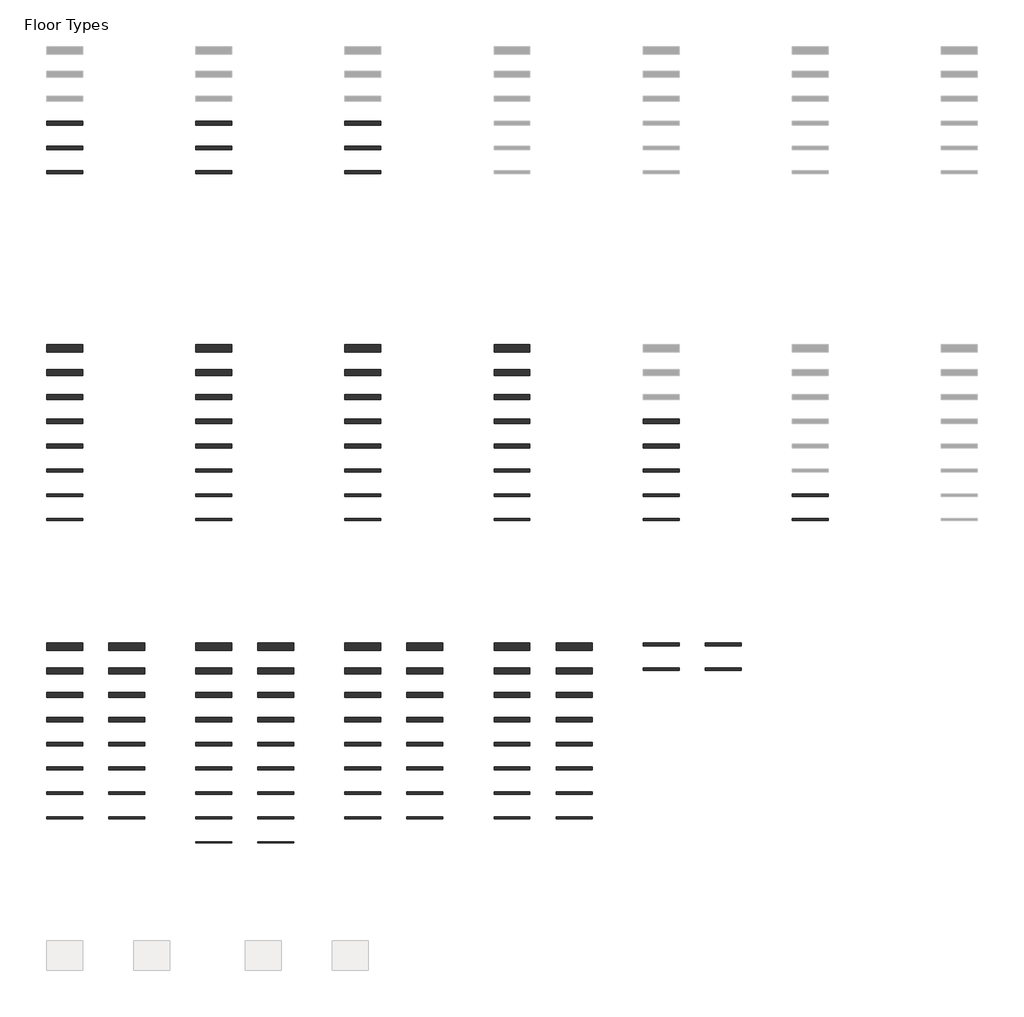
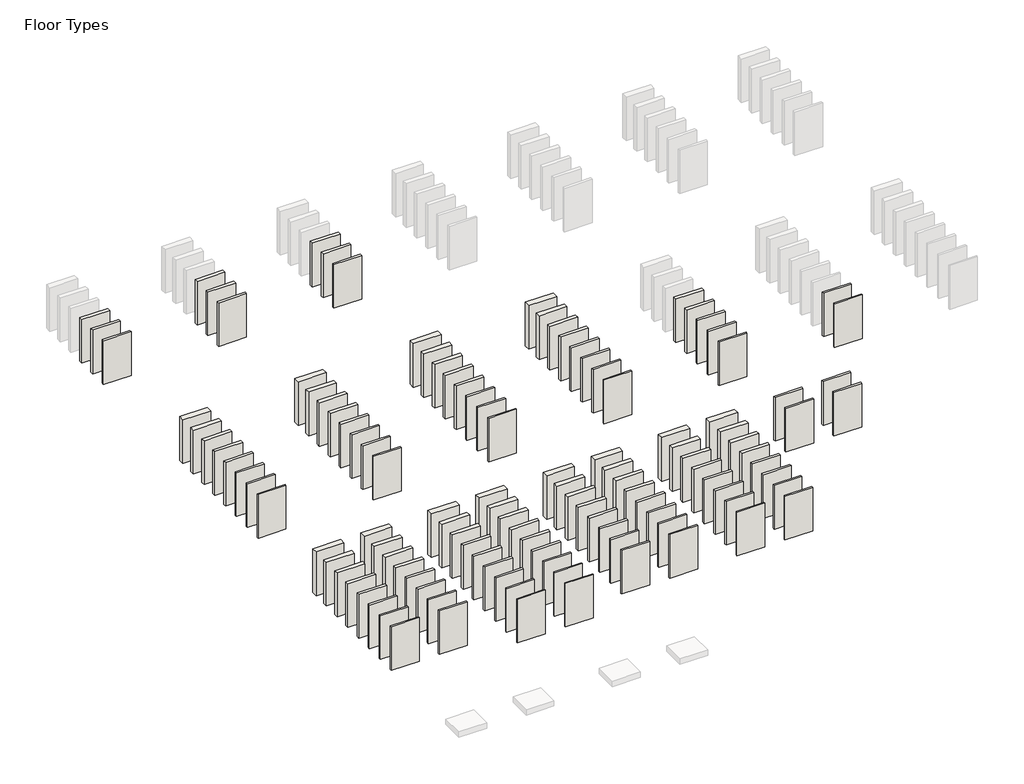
# One storey, part 1 of 4: 118 walls.
"""IFC4 building model written with IfcOpenShell, lengths in millimetres."""

from ifc_helpers import new_model, si_unit, origin, origin_with_axes, place, context, project, spatial, polyline, outline, extrude, element, save

model = new_model("IFC4")

# Units and contexts
model_context = context("Model", 3, world=origin())
ifc_project = project(units=[si_unit("LENGTHUNIT", "METRE", prefix="MILLI")], contexts=[model_context])

# Site, building, storey
site = spatial("IfcSite", under=ifc_project)
building = spatial("IfcBuilding", under=site)
storey = spatial("IfcBuildingStorey", under=building, Name="Floor Types", Elevation=0.0)

# Walls
placement = place(None, origin())
element("IfcWall", 1, ObjectType="ASTL_PS1200PD_Hz_175mm", at=placement, inside=storey, context=model_context, shape_type="SweptSolid", body=[
    extrude(outline(polyline([(1447.8085217, -32174.0), (0.0, -32174.0), (0.0, -31999.0), (1447.8085217, -31999.0), (1447.8085217, -32174.0)])), origin_with_axes(), (0.0, 0.0, 1.0), 2400.0),
])
element("IfcWall", 2, ObjectType="ASTL_PS1200PD_Hz_150mm", at=placement, inside=storey, context=model_context, shape_type="SweptSolid", body=[
    extrude(outline(polyline([(1447.8085217, -33149.0), (0.0, -33149.0), (0.0, -32999.0), (1447.8085217, -32999.0), (1447.8085217, -33149.0)])), origin_with_axes(), (0.0, 0.0, 1.0), 2400.0),
])
element("IfcWall", 3, ObjectType="ASTL_PS1200PD_Hz_120mm", at=placement, inside=storey, context=model_context, shape_type="SweptSolid", body=[
    extrude(outline(polyline([(1447.8085217, -34119.0), (0.0, -34119.0), (0.0, -33999.0), (1447.8085217, -33999.0), (1447.8085217, -34119.0)])), origin_with_axes(), (0.0, 0.0, 1.0), 2400.0),
])
element("IfcWall", 4, ObjectType="ASTE_PS1200PD_Hz_175mm", at=placement, inside=storey, context=model_context, shape_type="SweptSolid", body=[
    extrude(outline(polyline([(7447.8085217, -32174.0), (6000.0, -32174.0), (6000.0, -31999.0), (7447.8085217, -31999.0), (7447.8085217, -32174.0)])), origin_with_axes(), (0.0, 0.0, 1.0), 2400.0),
])
element("IfcWall", 5, ObjectType="ASTE_PS1200PD_Hz_150mm", at=placement, inside=storey, context=model_context, shape_type="SweptSolid", body=[
    extrude(outline(polyline([(7447.8085217, -33149.0), (6000.0, -33149.0), (6000.0, -32999.0), (7447.8085217, -32999.0), (7447.8085217, -33149.0)])), origin_with_axes(), (0.0, 0.0, 1.0), 2400.0),
])
element("IfcWall", 6, ObjectType="ASTE_PS1200PD_Hz_120mm", at=placement, inside=storey, context=model_context, shape_type="SweptSolid", body=[
    extrude(outline(polyline([(7447.8085217, -34119.0), (6000.0, -34119.0), (6000.0, -33999.0), (7447.8085217, -33999.0), (7447.8085217, -34119.0)])), origin_with_axes(), (0.0, 0.0, 1.0), 2400.0),
])
element("IfcWall", 7, ObjectType="ASTF_PS1200PD_Hz_175mm", at=placement, inside=storey, context=model_context, shape_type="SweptSolid", body=[
    extrude(outline(polyline([(13447.8085217, -32174.0), (12000.0, -32174.0), (12000.0, -31999.0), (13447.8085217, -31999.0), (13447.8085217, -32174.0)])), origin_with_axes(), (0.0, 0.0, 1.0), 2400.0),
])
element("IfcWall", 8, ObjectType="ASTF_PS1200PD_Hz_150mm", at=placement, inside=storey, context=model_context, shape_type="SweptSolid", body=[
    extrude(outline(polyline([(13447.8085217, -33149.0), (12000.0, -33149.0), (12000.0, -32999.0), (13447.8085217, -32999.0), (13447.8085217, -33149.0)])), origin_with_axes(), (0.0, 0.0, 1.0), 2400.0),
])
element("IfcWall", 9, ObjectType="ASTF_PS1200PD_Hz_120mm", at=placement, inside=storey, context=model_context, shape_type="SweptSolid", body=[
    extrude(outline(polyline([(13447.8085217, -34119.0), (12000.0, -34119.0), (12000.0, -33999.0), (13447.8085217, -33999.0), (13447.8085217, -34119.0)])), origin_with_axes(), (0.0, 0.0, 1.0), 2400.0),
])
element("IfcWall", 10, ObjectType="ASTL_PS1200PS_Hz_300mm", at=placement, inside=storey, context=model_context, shape_type="SweptSolid", body=[
    extrude(outline(polyline([(1447.8085217, -41298.0), (0.0, -41298.0), (0.0, -40998.0), (1447.8085217, -40998.0), (1447.8085217, -41298.0)])), origin_with_axes(), (0.0, 0.0, 1.0), 2400.0),
])
element("IfcWall", 11, ObjectType="ASTL_PS1200PS_Hz_240mm", at=placement, inside=storey, context=model_context, shape_type="SweptSolid", body=[
    extrude(outline(polyline([(1447.8085217, -42239.0), (0.0, -42239.0), (0.0, -41999.0), (1447.8085217, -41999.0), (1447.8085217, -42239.0)])), origin_with_axes(), (0.0, 0.0, 1.0), 2400.0),
])
element("IfcWall", 12, ObjectType="ASTL_PS1200PS_Hz_200mm", at=placement, inside=storey, context=model_context, shape_type="SweptSolid", body=[
    extrude(outline(polyline([(1447.8085217, -43199.0), (0.0, -43199.0), (0.0, -42999.0), (1447.8085217, -42999.0), (1447.8085217, -43199.0)])), origin_with_axes(), (0.0, 0.0, 1.0), 2400.0),
])
element("IfcWall", 13, ObjectType="ASTL_PS1200PS_Hz_175mm", at=placement, inside=storey, context=model_context, shape_type="SweptSolid", body=[
    extrude(outline(polyline([(1447.8085217, -44174.0), (0.0, -44174.0), (0.0, -43999.0), (1447.8085217, -43999.0), (1447.8085217, -44174.0)])), origin_with_axes(), (0.0, 0.0, 1.0), 2400.0),
])
element("IfcWall", 14, ObjectType="ASTL_PS1200PS_Hz_150mm", at=placement, inside=storey, context=model_context, shape_type="SweptSolid", body=[
    extrude(outline(polyline([(1447.8085217, -45149.0), (0.0, -45149.0), (0.0, -44999.0), (1447.8085217, -44999.0), (1447.8085217, -45149.0)])), origin_with_axes(), (0.0, 0.0, 1.0), 2400.0),
])
element("IfcWall", 15, ObjectType="ASTL_PS1200PS_Hz_120mm", at=placement, inside=storey, context=model_context, shape_type="SweptSolid", body=[
    extrude(outline(polyline([(1447.8085217, -46119.0), (0.0, -46119.0), (0.0, -45999.0), (1447.8085217, -45999.0), (1447.8085217, -46119.0)])), origin_with_axes(), (0.0, 0.0, 1.0), 2400.0),
])
element("IfcWall", 16, ObjectType="ASTL_PS1200PS_Hz_100mm", at=placement, inside=storey, context=model_context, shape_type="SweptSolid", body=[
    extrude(outline(polyline([(1447.8085217, -47099.0), (0.0, -47099.0), (0.0, -46999.0), (1447.8085217, -46999.0), (1447.8085217, -47099.0)])), origin_with_axes(), (0.0, 0.0, 1.0), 2400.0),
])
element("IfcWall", 17, ObjectType="ASTL_PS1200PS_Hz_080mm", at=placement, inside=storey, context=model_context, shape_type="SweptSolid", body=[
    extrude(outline(polyline([(1447.8085217, -48079.0), (0.0, -48079.0), (0.0, -47999.0), (1447.8085217, -47999.0), (1447.8085217, -48079.0)])), origin_with_axes(), (0.0, 0.0, 1.0), 2400.0),
])
element("IfcWall", 18, ObjectType="ASTE_PS1200PS_Hz_300mm", at=placement, inside=storey, context=model_context, shape_type="SweptSolid", body=[
    extrude(outline(polyline([(7447.8085217, -41299.0), (6000.0, -41299.0), (6000.0, -40999.0), (7447.8085217, -40999.0), (7447.8085217, -41299.0)])), origin_with_axes(), (0.0, 0.0, 1.0), 2400.0),
])
element("IfcWall", 19, ObjectType="ASTE_PS1200PS_Hz_240mm", at=placement, inside=storey, context=model_context, shape_type="SweptSolid", body=[
    extrude(outline(polyline([(7447.8085217, -42239.0), (6000.0, -42239.0), (6000.0, -41999.0), (7447.8085217, -41999.0), (7447.8085217, -42239.0)])), origin_with_axes(), (0.0, 0.0, 1.0), 2400.0),
])
element("IfcWall", 20, ObjectType="ASTE_PS1200PS_Hz_200mm", at=placement, inside=storey, context=model_context, shape_type="SweptSolid", body=[
    extrude(outline(polyline([(7447.8085217, -43199.0), (6000.0, -43199.0), (6000.0, -42999.0), (7447.8085217, -42999.0), (7447.8085217, -43199.0)])), origin_with_axes(), (0.0, 0.0, 1.0), 2400.0),
])
element("IfcWall", 21, ObjectType="ASTE_PS1200PS_Hz_175mm", at=placement, inside=storey, context=model_context, shape_type="SweptSolid", body=[
    extrude(outline(polyline([(7447.8085217, -44174.0), (6000.0, -44174.0), (6000.0, -43999.0), (7447.8085217, -43999.0), (7447.8085217, -44174.0)])), origin_with_axes(), (0.0, 0.0, 1.0), 2400.0),
])
element("IfcWall", 22, ObjectType="ASTE_PS1200PS_Hz_150mm", at=placement, inside=storey, context=model_context, shape_type="SweptSolid", body=[
    extrude(outline(polyline([(7447.8085217, -45149.0), (6000.0, -45149.0), (6000.0, -44999.0), (7447.8085217, -44999.0), (7447.8085217, -45149.0)])), origin_with_axes(), (0.0, 0.0, 1.0), 2400.0),
])
element("IfcWall", 23, ObjectType="ASTE_PS1200PS_Hz_120mm", at=placement, inside=storey, context=model_context, shape_type="SweptSolid", body=[
    extrude(outline(polyline([(7447.8085217, -46119.0), (6000.0, -46119.0), (6000.0, -45999.0), (7447.8085217, -45999.0), (7447.8085217, -46119.0)])), origin_with_axes(), (0.0, 0.0, 1.0), 2400.0),
])
element("IfcWall", 24, ObjectType="ASTE_PS1200PS_Hz_100mm", at=placement, inside=storey, context=model_context, shape_type="SweptSolid", body=[
    extrude(outline(polyline([(7447.8085217, -47099.0), (6000.0, -47099.0), (6000.0, -46999.0), (7447.8085217, -46999.0), (7447.8085217, -47099.0)])), origin_with_axes(), (0.0, 0.0, 1.0), 2400.0),
])
element("IfcWall", 25, ObjectType="ASTE_PS1200PS_Hz_080mm", at=placement, inside=storey, context=model_context, shape_type="SweptSolid", body=[
    extrude(outline(polyline([(7447.8085217, -48079.0), (6000.0, -48079.0), (6000.0, -47999.0), (7447.8085217, -47999.0), (7447.8085217, -48079.0)])), origin_with_axes(), (0.0, 0.0, 1.0), 2400.0),
])
element("IfcWall", 26, ObjectType="ASTF_PS1200PS_Hz_300mm", at=placement, inside=storey, context=model_context, shape_type="SweptSolid", body=[
    extrude(outline(polyline([(13447.8085217, -41298.0), (12000.0, -41298.0), (12000.0, -40998.0), (13447.8085217, -40998.0), (13447.8085217, -41298.0)])), origin_with_axes(), (0.0, 0.0, 1.0), 2400.0),
])
element("IfcWall", 27, ObjectType="ASTF_PS1200PS_Hz_240mm", at=placement, inside=storey, context=model_context, shape_type="SweptSolid", body=[
    extrude(outline(polyline([(13447.8085217, -42239.0), (12000.0, -42239.0), (12000.0, -41999.0), (13447.8085217, -41999.0), (13447.8085217, -42239.0)])), origin_with_axes(), (0.0, 0.0, 1.0), 2400.0),
])
element("IfcWall", 28, ObjectType="ASTF_PS1200PS_Hz_200mm", at=placement, inside=storey, context=model_context, shape_type="SweptSolid", body=[
    extrude(outline(polyline([(13447.8085217, -43199.0), (12000.0, -43199.0), (12000.0, -42999.0), (13447.8085217, -42999.0), (13447.8085217, -43199.0)])), origin_with_axes(), (0.0, 0.0, 1.0), 2400.0),
])
element("IfcWall", 29, ObjectType="ASTF_PS1200PS_Hz_175mm", at=placement, inside=storey, context=model_context, shape_type="SweptSolid", body=[
    extrude(outline(polyline([(13447.8085217, -44174.0), (12000.0, -44174.0), (12000.0, -43999.0), (13447.8085217, -43999.0), (13447.8085217, -44174.0)])), origin_with_axes(), (0.0, 0.0, 1.0), 2400.0),
])
element("IfcWall", 30, ObjectType="ASTF_PS1200PS_Hz_150mm", at=placement, inside=storey, context=model_context, shape_type="SweptSolid", body=[
    extrude(outline(polyline([(13447.8085217, -45149.0), (12000.0, -45149.0), (12000.0, -44999.0), (13447.8085217, -44999.0), (13447.8085217, -45149.0)])), origin_with_axes(), (0.0, 0.0, 1.0), 2400.0),
])
element("IfcWall", 31, ObjectType="ASTF_PS1200PS_Hz_120mm", at=placement, inside=storey, context=model_context, shape_type="SweptSolid", body=[
    extrude(outline(polyline([(13447.8085217, -46119.0), (12000.0, -46119.0), (12000.0, -45999.0), (13447.8085217, -45999.0), (13447.8085217, -46119.0)])), origin_with_axes(), (0.0, 0.0, 1.0), 2400.0),
])
element("IfcWall", 32, ObjectType="ASTF_PS1200PS_Hz_100mm", at=placement, inside=storey, context=model_context, shape_type="SweptSolid", body=[
    extrude(outline(polyline([(13447.8085217, -47099.0), (12000.0, -47099.0), (12000.0, -46999.0), (13447.8085217, -46999.0), (13447.8085217, -47099.0)])), origin_with_axes(), (0.0, 0.0, 1.0), 2400.0),
])
element("IfcWall", 33, ObjectType="ASTF_PS1200PS_Hz_080mm", at=placement, inside=storey, context=model_context, shape_type="SweptSolid", body=[
    extrude(outline(polyline([(13447.8085217, -48079.0), (12000.0, -48079.0), (12000.0, -47999.0), (13447.8085217, -47999.0), (13447.8085217, -48079.0)])), origin_with_axes(), (0.0, 0.0, 1.0), 2400.0),
])
element("IfcWall", 34, ObjectType="ASTS_PS1200PS_Hz_300mm", at=placement, inside=storey, context=model_context, shape_type="SweptSolid", body=[
    extrude(outline(polyline([(19447.8085217, -41298.0), (18000.0, -41298.0), (18000.0, -40998.0), (19447.8085217, -40998.0), (19447.8085217, -41298.0)])), origin_with_axes(), (0.0, 0.0, 1.0), 2400.0),
])
element("IfcWall", 35, ObjectType="ASTS_PS1200PS_Hz_240mm", at=placement, inside=storey, context=model_context, shape_type="SweptSolid", body=[
    extrude(outline(polyline([(19447.8085217, -42239.0), (18000.0, -42239.0), (18000.0, -41999.0), (19447.8085217, -41999.0), (19447.8085217, -42239.0)])), origin_with_axes(), (0.0, 0.0, 1.0), 2400.0),
])
element("IfcWall", 36, ObjectType="ASTS_PS1200PS_Hz_200mm", at=placement, inside=storey, context=model_context, shape_type="SweptSolid", body=[
    extrude(outline(polyline([(19447.8085217, -43199.0), (18000.0, -43199.0), (18000.0, -42999.0), (19447.8085217, -42999.0), (19447.8085217, -43199.0)])), origin_with_axes(), (0.0, 0.0, 1.0), 2400.0),
])
element("IfcWall", 37, ObjectType="ASTS_PS1200PS_Hz_175mm", at=placement, inside=storey, context=model_context, shape_type="SweptSolid", body=[
    extrude(outline(polyline([(19447.8085217, -44174.0), (18000.0, -44174.0), (18000.0, -43999.0), (19447.8085217, -43999.0), (19447.8085217, -44174.0)])), origin_with_axes(), (0.0, 0.0, 1.0), 2400.0),
])
element("IfcWall", 38, ObjectType="ASTS_PS1200PS_Hz_150mm", at=placement, inside=storey, context=model_context, shape_type="SweptSolid", body=[
    extrude(outline(polyline([(19447.8085217, -45149.0), (18000.0, -45149.0), (18000.0, -44999.0), (19447.8085217, -44999.0), (19447.8085217, -45149.0)])), origin_with_axes(), (0.0, 0.0, 1.0), 2400.0),
])
element("IfcWall", 39, ObjectType="ASTS_PS1200PS_Hz_120mm", at=placement, inside=storey, context=model_context, shape_type="SweptSolid", body=[
    extrude(outline(polyline([(19447.8085217, -46119.0), (18000.0, -46119.0), (18000.0, -45999.0), (19447.8085217, -45999.0), (19447.8085217, -46119.0)])), origin_with_axes(), (0.0, 0.0, 1.0), 2400.0),
])
element("IfcWall", 40, ObjectType="ASTS_PS1200PS_Hz_100mm", at=placement, inside=storey, context=model_context, shape_type="SweptSolid", body=[
    extrude(outline(polyline([(19447.8085217, -47099.0), (18000.0, -47099.0), (18000.0, -46999.0), (19447.8085217, -46999.0), (19447.8085217, -47099.0)])), origin_with_axes(), (0.0, 0.0, 1.0), 2400.0),
])
element("IfcWall", 41, ObjectType="ASTS_PS1200PS_Hz_080mm", at=placement, inside=storey, context=model_context, shape_type="SweptSolid", body=[
    extrude(outline(polyline([(19447.8085217, -48079.0), (18000.0, -48079.0), (18000.0, -47999.0), (19447.8085217, -47999.0), (19447.8085217, -48079.0)])), origin_with_axes(), (0.0, 0.0, 1.0), 2400.0),
])
element("IfcWall", 42, ObjectType="ASTL_PS1200PS-LEC_Hz_175mm", at=placement, inside=storey, context=model_context, shape_type="SweptSolid", body=[
    extrude(outline(polyline([(25447.8085217, -44174.0), (24000.0, -44174.0), (24000.0, -43999.0), (25447.8085217, -43999.0), (25447.8085217, -44174.0)])), origin_with_axes(), (0.0, 0.0, 1.0), 2400.0),
])
element("IfcWall", 43, ObjectType="ASTL_PS1200PS-LEC_Hz_150mm", at=placement, inside=storey, context=model_context, shape_type="SweptSolid", body=[
    extrude(outline(polyline([(25447.8085217, -45149.0), (24000.0, -45149.0), (24000.0, -44999.0), (25447.8085217, -44999.0), (25447.8085217, -45149.0)])), origin_with_axes(), (0.0, 0.0, 1.0), 2400.0),
])
element("IfcWall", 44, ObjectType="ASTL_PS1200PS-LEC_Hz_120mm", at=placement, inside=storey, context=model_context, shape_type="SweptSolid", body=[
    extrude(outline(polyline([(25447.8085217, -46119.0), (24000.0, -46119.0), (24000.0, -45999.0), (25447.8085217, -45999.0), (25447.8085217, -46119.0)])), origin_with_axes(), (0.0, 0.0, 1.0), 2400.0),
])
element("IfcWall", 45, ObjectType="ASTL_PS1200PS-LEC_Hz_100mm", at=placement, inside=storey, context=model_context, shape_type="SweptSolid", body=[
    extrude(outline(polyline([(25447.8085217, -47099.0), (24000.0, -47099.0), (24000.0, -46999.0), (25447.8085217, -46999.0), (25447.8085217, -47099.0)])), origin_with_axes(), (0.0, 0.0, 1.0), 2400.0),
])
element("IfcWall", 46, ObjectType="ASTL_PS1200PS-LEC_Hz_080mm", at=placement, inside=storey, context=model_context, shape_type="SweptSolid", body=[
    extrude(outline(polyline([(25447.8085217, -48079.0), (24000.0, -48079.0), (24000.0, -47999.0), (25447.8085217, -47999.0), (25447.8085217, -48079.0)])), origin_with_axes(), (0.0, 0.0, 1.0), 2400.0),
])
element("IfcWall", 47, ObjectType="ASTE_PS1200PS-LEC_Hz_100mm", at=placement, inside=storey, context=model_context, shape_type="SweptSolid", body=[
    extrude(outline(polyline([(31447.8085217, -47099.0), (30000.0, -47099.0), (30000.0, -46999.0), (31447.8085217, -46999.0), (31447.8085217, -47099.0)])), origin_with_axes(), (0.0, 0.0, 1.0), 2400.0),
])
element("IfcWall", 48, ObjectType="ASTE_PS1200PS-LEC_Hz_080mm", at=placement, inside=storey, context=model_context, shape_type="SweptSolid", body=[
    extrude(outline(polyline([(31447.8085217, -48079.0), (30000.0, -48079.0), (30000.0, -47999.0), (31447.8085217, -47999.0), (31447.8085217, -48079.0)])), origin_with_axes(), (0.0, 0.0, 1.0), 2400.0),
])
element("IfcWall", 49, ObjectType="ASTL_PS1200PL-LEC_Hz_300mm", at=placement, inside=storey, context=model_context, shape_type="SweptSolid", body=[
    extrude(outline(polyline([(1447.8085217, -53298.0), (0.0, -53298.0), (0.0, -52998.0), (1447.8085217, -52998.0), (1447.8085217, -53298.0)])), origin_with_axes(), (0.0, 0.0, 1.0), 2400.0),
])
element("IfcWall", 50, ObjectType="ASTL_PS1200PL-LEC_Hz_240mm", at=placement, inside=storey, context=model_context, shape_type="SweptSolid", body=[
    extrude(outline(polyline([(1447.8085217, -54239.0), (0.0, -54239.0), (0.0, -53999.0), (1447.8085217, -53999.0), (1447.8085217, -54239.0)])), origin_with_axes(), (0.0, 0.0, 1.0), 2400.0),
])
element("IfcWall", 51, ObjectType="ASTL_PS1200PL-LEC_Hz_200mm", at=placement, inside=storey, context=model_context, shape_type="SweptSolid", body=[
    extrude(outline(polyline([(1447.8085217, -55199.0), (0.0, -55199.0), (0.0, -54999.0), (1447.8085217, -54999.0), (1447.8085217, -55199.0)])), origin_with_axes(), (0.0, 0.0, 1.0), 2400.0),
])
element("IfcWall", 52, ObjectType="ASTL_PS1200PL-LEC_Hz_175mm", at=placement, inside=storey, context=model_context, shape_type="SweptSolid", body=[
    extrude(outline(polyline([(1447.8085217, -56174.0), (0.0, -56174.0), (0.0, -55999.0), (1447.8085217, -55999.0), (1447.8085217, -56174.0)])), origin_with_axes(), (0.0, 0.0, 1.0), 2400.0),
])
element("IfcWall", 53, ObjectType="ASTL_PS1200PL-LEC_Hz_150mm", at=placement, inside=storey, context=model_context, shape_type="SweptSolid", body=[
    extrude(outline(polyline([(1447.8085217, -57149.0), (0.0, -57149.0), (0.0, -56999.0), (1447.8085217, -56999.0), (1447.8085217, -57149.0)])), origin_with_axes(), (0.0, 0.0, 1.0), 2400.0),
])
element("IfcWall", 54, ObjectType="ASTL_PS1200PL-LEC_Hz_120mm", at=placement, inside=storey, context=model_context, shape_type="SweptSolid", body=[
    extrude(outline(polyline([(1447.8085217, -58119.0), (0.0, -58119.0), (0.0, -57999.0), (1447.8085217, -57999.0), (1447.8085217, -58119.0)])), origin_with_axes(), (0.0, 0.0, 1.0), 2400.0),
])
element("IfcWall", 55, ObjectType="ASTL_PS1200PL-LEC_Hz_100mm", at=placement, inside=storey, context=model_context, shape_type="SweptSolid", body=[
    extrude(outline(polyline([(1447.8085217, -59099.0), (0.0, -59099.0), (0.0, -58999.0), (1447.8085217, -58999.0), (1447.8085217, -59099.0)])), origin_with_axes(), (0.0, 0.0, 1.0), 2400.0),
])
element("IfcWall", 56, ObjectType="ASTL_PS1200PL-LEC_Vt_300mm", at=placement, inside=storey, context=model_context, shape_type="SweptSolid", body=[
    extrude(outline(polyline([(3947.5922316, -53298.0), (2499.78371, -53298.0), (2499.78371, -52998.0), (3947.5922316, -52998.0), (3947.5922316, -53298.0)])), origin_with_axes(), (0.0, 0.0, 1.0), 2400.0),
])
element("IfcWall", 57, ObjectType="ASTL_PS1200PL-LEC_Vt_240mm", at=placement, inside=storey, context=model_context, shape_type="SweptSolid", body=[
    extrude(outline(polyline([(3947.5922316, -54239.0), (2499.78371, -54239.0), (2499.78371, -53999.0), (3947.5922316, -53999.0), (3947.5922316, -54239.0)])), origin_with_axes(), (0.0, 0.0, 1.0), 2400.0),
])
element("IfcWall", 58, ObjectType="ASTL_PS1200PL-LEC_Vt_200mm", at=placement, inside=storey, context=model_context, shape_type="SweptSolid", body=[
    extrude(outline(polyline([(3947.5922316, -55199.0), (2499.78371, -55199.0), (2499.78371, -54999.0), (3947.5922316, -54999.0), (3947.5922316, -55199.0)])), origin_with_axes(), (0.0, 0.0, 1.0), 2400.0),
])
element("IfcWall", 59, ObjectType="ASTL_PS1200PL-LEC_Vt_175mm", at=placement, inside=storey, context=model_context, shape_type="SweptSolid", body=[
    extrude(outline(polyline([(3947.5922316, -56174.0), (2499.78371, -56174.0), (2499.78371, -55999.0), (3947.5922316, -55999.0), (3947.5922316, -56174.0)])), origin_with_axes(), (0.0, 0.0, 1.0), 2400.0),
])
element("IfcWall", 60, ObjectType="ASTL_PS1200PL-LEC_Vt_150mm", at=placement, inside=storey, context=model_context, shape_type="SweptSolid", body=[
    extrude(outline(polyline([(3947.5922316, -57149.0), (2499.78371, -57149.0), (2499.78371, -56999.0), (3947.5922316, -56999.0), (3947.5922316, -57149.0)])), origin_with_axes(), (0.0, 0.0, 1.0), 2400.0),
])
element("IfcWall", 61, ObjectType="ASTL_PS1200PL-LEC_Vt_120mm", at=placement, inside=storey, context=model_context, shape_type="SweptSolid", body=[
    extrude(outline(polyline([(3947.5922316, -58119.0), (2499.78371, -58119.0), (2499.78371, -57999.0), (3947.5922316, -57999.0), (3947.5922316, -58119.0)])), origin_with_axes(), (0.0, 0.0, 1.0), 2400.0),
])
element("IfcWall", 62, ObjectType="ASTL_PS1200PL-LEC_Vt_100mm", at=placement, inside=storey, context=model_context, shape_type="SweptSolid", body=[
    extrude(outline(polyline([(3947.5922316, -59099.0), (2499.78371, -59099.0), (2499.78371, -58999.0), (3947.5922316, -58999.0), (3947.5922316, -59099.0)])), origin_with_axes(), (0.0, 0.0, 1.0), 2400.0),
])
element("IfcWall", 63, ObjectType="ASTL_PS1200PL-LEC_Vt_080mm", at=placement, inside=storey, context=model_context, shape_type="SweptSolid", body=[
    extrude(outline(polyline([(3947.5922316, -60079.0), (2499.78371, -60079.0), (2499.78371, -59999.0), (3947.5922316, -59999.0), (3947.5922316, -60079.0)])), origin_with_axes(), (0.0, 0.0, 1.0), 2400.0),
])
element("IfcWall", 64, ObjectType="ASTL_PS1200PL-LEC_Hz_080mm", at=placement, inside=storey, context=model_context, shape_type="SweptSolid", body=[
    extrude(outline(polyline([(1447.8085217, -60079.0), (0.0, -60079.0), (0.0, -59999.0), (1447.8085217, -59999.0), (1447.8085217, -60079.0)])), origin_with_axes(), (0.0, 0.0, 1.0), 2400.0),
])
element("IfcWall", 65, ObjectType="ASTE_PS1200PL-LEC_Hz_300mm", at=placement, inside=storey, context=model_context, shape_type="SweptSolid", body=[
    extrude(outline(polyline([(7447.8085217, -53298.0), (6000.0, -53298.0), (6000.0, -52998.0), (7447.8085217, -52998.0), (7447.8085217, -53298.0)])), origin_with_axes(), (0.0, 0.0, 1.0), 2400.0),
])
element("IfcWall", 66, ObjectType="ASTE_PS1200PL-LEC_Hz_240mm", at=placement, inside=storey, context=model_context, shape_type="SweptSolid", body=[
    extrude(outline(polyline([(7447.8085217, -54239.0), (6000.0, -54239.0), (6000.0, -53999.0), (7447.8085217, -53999.0), (7447.8085217, -54239.0)])), origin_with_axes(), (0.0, 0.0, 1.0), 2400.0),
])
element("IfcWall", 67, ObjectType="ASTE_PS1200PL-LEC_Hz_200mm", at=placement, inside=storey, context=model_context, shape_type="SweptSolid", body=[
    extrude(outline(polyline([(7447.8085217, -55199.0), (6000.0, -55199.0), (6000.0, -54999.0), (7447.8085217, -54999.0), (7447.8085217, -55199.0)])), origin_with_axes(), (0.0, 0.0, 1.0), 2400.0),
])
element("IfcWall", 68, ObjectType="ASTE_PS1200PL-LEC_Hz_175mm", at=placement, inside=storey, context=model_context, shape_type="SweptSolid", body=[
    extrude(outline(polyline([(7447.8085217, -56174.0), (6000.0, -56174.0), (6000.0, -55999.0), (7447.8085217, -55999.0), (7447.8085217, -56174.0)])), origin_with_axes(), (0.0, 0.0, 1.0), 2400.0),
])
element("IfcWall", 69, ObjectType="ASTE_PS1200PL-LEC_Hz_150mm", at=placement, inside=storey, context=model_context, shape_type="SweptSolid", body=[
    extrude(outline(polyline([(7447.8085217, -57149.0), (6000.0, -57149.0), (6000.0, -56999.0), (7447.8085217, -56999.0), (7447.8085217, -57149.0)])), origin_with_axes(), (0.0, 0.0, 1.0), 2400.0),
])
element("IfcWall", 70, ObjectType="ASTE_PS1200PL-LEC_Hz_120mm", at=placement, inside=storey, context=model_context, shape_type="SweptSolid", body=[
    extrude(outline(polyline([(7447.8085217, -58119.0), (6000.0, -58119.0), (6000.0, -57999.0), (7447.8085217, -57999.0), (7447.8085217, -58119.0)])), origin_with_axes(), (0.0, 0.0, 1.0), 2400.0),
])
element("IfcWall", 71, ObjectType="ASTE_PS1200PL-LEC_Hz_100mm", at=placement, inside=storey, context=model_context, shape_type="SweptSolid", body=[
    extrude(outline(polyline([(7447.8085217, -59099.0), (6000.0, -59099.0), (6000.0, -58999.0), (7447.8085217, -58999.0), (7447.8085217, -59099.0)])), origin_with_axes(), (0.0, 0.0, 1.0), 2400.0),
])
element("IfcWall", 72, ObjectType="ASTE_PS1200PL-LEC_Vt_300mm", at=placement, inside=storey, context=model_context, shape_type="SweptSolid", body=[
    extrude(outline(polyline([(9947.5922316, -53298.0), (8499.78371, -53298.0), (8499.78371, -52998.0), (9947.5922316, -52998.0), (9947.5922316, -53298.0)])), origin_with_axes(), (0.0, 0.0, 1.0), 2400.0),
])
element("IfcWall", 73, ObjectType="ASTE_PS1200PL-LEC_Vt_240mm", at=placement, inside=storey, context=model_context, shape_type="SweptSolid", body=[
    extrude(outline(polyline([(9947.5922316, -54239.0), (8499.78371, -54239.0), (8499.78371, -53999.0), (9947.5922316, -53999.0), (9947.5922316, -54239.0)])), origin_with_axes(), (0.0, 0.0, 1.0), 2400.0),
])
element("IfcWall", 74, ObjectType="ASTE_PS1200PL-LEC_Vt_200mm", at=placement, inside=storey, context=model_context, shape_type="SweptSolid", body=[
    extrude(outline(polyline([(9947.5922316, -55199.0), (8499.78371, -55199.0), (8499.78371, -54999.0), (9947.5922316, -54999.0), (9947.5922316, -55199.0)])), origin_with_axes(), (0.0, 0.0, 1.0), 2400.0),
])
element("IfcWall", 75, ObjectType="ASTE_PS1200PL-LEC_Vt_175mm", at=placement, inside=storey, context=model_context, shape_type="SweptSolid", body=[
    extrude(outline(polyline([(9947.5922316, -56174.0), (8499.78371, -56174.0), (8499.78371, -55999.0), (9947.5922316, -55999.0), (9947.5922316, -56174.0)])), origin_with_axes(), (0.0, 0.0, 1.0), 2400.0),
])
element("IfcWall", 76, ObjectType="ASTE_PS1200PL-LEC_Vt_150mm", at=placement, inside=storey, context=model_context, shape_type="SweptSolid", body=[
    extrude(outline(polyline([(9947.5922316, -57149.0), (8499.78371, -57149.0), (8499.78371, -56999.0), (9947.5922316, -56999.0), (9947.5922316, -57149.0)])), origin_with_axes(), (0.0, 0.0, 1.0), 2400.0),
])
element("IfcWall", 77, ObjectType="ASTE_PS1200PL-LEC_Vt_120mm", at=placement, inside=storey, context=model_context, shape_type="SweptSolid", body=[
    extrude(outline(polyline([(9947.5922316, -58119.0), (8499.78371, -58119.0), (8499.78371, -57999.0), (9947.5922316, -57999.0), (9947.5922316, -58119.0)])), origin_with_axes(), (0.0, 0.0, 1.0), 2400.0),
])
element("IfcWall", 78, ObjectType="ASTE_PS1200PL-LEC_Vt_100mm", at=placement, inside=storey, context=model_context, shape_type="SweptSolid", body=[
    extrude(outline(polyline([(9947.5922316, -59099.0), (8499.78371, -59099.0), (8499.78371, -58999.0), (9947.5922316, -58999.0), (9947.5922316, -59099.0)])), origin_with_axes(), (0.0, 0.0, 1.0), 2400.0),
])
element("IfcWall", 79, ObjectType="ASTE_PS1200PL-LEC_Hz_050mm", at=placement, inside=storey, context=model_context, shape_type="SweptSolid", body=[
    extrude(outline(polyline([(7447.8085217, -61049.0), (6000.0, -61049.0), (6000.0, -60999.0), (7447.8085217, -60999.0), (7447.8085217, -61049.0)])), origin_with_axes(), (0.0, 0.0, 1.0), 2400.0),
])
element("IfcWall", 80, ObjectType="ASTE_PS1200PL-LEC_Vt_050mm", at=placement, inside=storey, context=model_context, shape_type="SweptSolid", body=[
    extrude(outline(polyline([(9947.5922316, -61049.0), (8499.78371, -61049.0), (8499.78371, -60999.0), (9947.5922316, -60999.0), (9947.5922316, -61049.0)])), origin_with_axes(), (0.0, 0.0, 1.0), 2400.0),
])
element("IfcWall", 81, ObjectType="ASTE_PS1200PL-LEC_Hz_080mm", at=placement, inside=storey, context=model_context, shape_type="SweptSolid", body=[
    extrude(outline(polyline([(7447.8085217, -60079.0), (6000.0, -60079.0), (6000.0, -59999.0), (7447.8085217, -59999.0), (7447.8085217, -60079.0)])), origin_with_axes(), (0.0, 0.0, 1.0), 2400.0),
])
element("IfcWall", 82, ObjectType="ASTE_PS1200PL-LEC_Vt_080mm", at=placement, inside=storey, context=model_context, shape_type="SweptSolid", body=[
    extrude(outline(polyline([(9947.5922316, -60079.0), (8499.78371, -60079.0), (8499.78371, -59999.0), (9947.5922316, -59999.0), (9947.5922316, -60079.0)])), origin_with_axes(), (0.0, 0.0, 1.0), 2400.0),
])
element("IfcWall", 83, ObjectType="ASTF_PS1200PL-LEC_Hz_300mm", at=placement, inside=storey, context=model_context, shape_type="SweptSolid", body=[
    extrude(outline(polyline([(13447.8085217, -53299.0), (12000.0, -53299.0), (12000.0, -52999.0), (13447.8085217, -52999.0), (13447.8085217, -53299.0)])), origin_with_axes(), (0.0, 0.0, 1.0), 2400.0),
])
element("IfcWall", 84, ObjectType="ASTF_PS1200PL-LEC_Hz_240mm", at=placement, inside=storey, context=model_context, shape_type="SweptSolid", body=[
    extrude(outline(polyline([(13447.8085217, -54239.0), (12000.0, -54239.0), (12000.0, -53999.0), (13447.8085217, -53999.0), (13447.8085217, -54239.0)])), origin_with_axes(), (0.0, 0.0, 1.0), 2400.0),
])
element("IfcWall", 85, ObjectType="ASTF_PS1200PL-LEC_Hz_200mm", at=placement, inside=storey, context=model_context, shape_type="SweptSolid", body=[
    extrude(outline(polyline([(13447.8085217, -55199.0), (12000.0, -55199.0), (12000.0, -54999.0), (13447.8085217, -54999.0), (13447.8085217, -55199.0)])), origin_with_axes(), (0.0, 0.0, 1.0), 2400.0),
])
element("IfcWall", 86, ObjectType="ASTF_PS1200PL-LEC_Hz_175mm", at=placement, inside=storey, context=model_context, shape_type="SweptSolid", body=[
    extrude(outline(polyline([(13447.8085217, -56174.0), (12000.0, -56174.0), (12000.0, -55999.0), (13447.8085217, -55999.0), (13447.8085217, -56174.0)])), origin_with_axes(), (0.0, 0.0, 1.0), 2400.0),
])
element("IfcWall", 87, ObjectType="ASTF_PS1200PL-LEC_Hz_150mm", at=placement, inside=storey, context=model_context, shape_type="SweptSolid", body=[
    extrude(outline(polyline([(13447.8085217, -57149.0), (12000.0, -57149.0), (12000.0, -56999.0), (13447.8085217, -56999.0), (13447.8085217, -57149.0)])), origin_with_axes(), (0.0, 0.0, 1.0), 2400.0),
])
element("IfcWall", 88, ObjectType="ASTF_PS1200PL-LEC_Hz_120mm", at=placement, inside=storey, context=model_context, shape_type="SweptSolid", body=[
    extrude(outline(polyline([(13447.8085217, -58119.0), (12000.0, -58119.0), (12000.0, -57999.0), (13447.8085217, -57999.0), (13447.8085217, -58119.0)])), origin_with_axes(), (0.0, 0.0, 1.0), 2400.0),
])
element("IfcWall", 89, ObjectType="ASTF_PS1200PL-LEC_Hz_100mm", at=placement, inside=storey, context=model_context, shape_type="SweptSolid", body=[
    extrude(outline(polyline([(13447.8085217, -59099.0), (12000.0, -59099.0), (12000.0, -58999.0), (13447.8085217, -58999.0), (13447.8085217, -59099.0)])), origin_with_axes(), (0.0, 0.0, 1.0), 2400.0),
])
element("IfcWall", 90, ObjectType="ASTF_PS1200PL-LEC_Vt_300mm", at=placement, inside=storey, context=model_context, shape_type="SweptSolid", body=[
    extrude(outline(polyline([(15947.5922316, -53299.0), (14499.78371, -53299.0), (14499.78371, -52999.0), (15947.5922316, -52999.0), (15947.5922316, -53299.0)])), origin_with_axes(), (0.0, 0.0, 1.0), 2400.0),
])
element("IfcWall", 91, ObjectType="ASTF_PS1200PL-LEC_Vt_240mm", at=placement, inside=storey, context=model_context, shape_type="SweptSolid", body=[
    extrude(outline(polyline([(15947.5922316, -54239.0), (14499.78371, -54239.0), (14499.78371, -53999.0), (15947.5922316, -53999.0), (15947.5922316, -54239.0)])), origin_with_axes(), (0.0, 0.0, 1.0), 2400.0),
])
element("IfcWall", 92, ObjectType="ASTF_PS1200PL-LEC_Vt_200mm", at=placement, inside=storey, context=model_context, shape_type="SweptSolid", body=[
    extrude(outline(polyline([(15947.5922316, -55199.0), (14499.78371, -55199.0), (14499.78371, -54999.0), (15947.5922316, -54999.0), (15947.5922316, -55199.0)])), origin_with_axes(), (0.0, 0.0, 1.0), 2400.0),
])
element("IfcWall", 93, ObjectType="ASTF_PS1200PL-LEC_Vt_175mm", at=placement, inside=storey, context=model_context, shape_type="SweptSolid", body=[
    extrude(outline(polyline([(15947.5922316, -56174.0), (14499.78371, -56174.0), (14499.78371, -55999.0), (15947.5922316, -55999.0), (15947.5922316, -56174.0)])), origin_with_axes(), (0.0, 0.0, 1.0), 2400.0),
])
element("IfcWall", 94, ObjectType="ASTF_PS1200PL-LEC_Vt_150mm", at=placement, inside=storey, context=model_context, shape_type="SweptSolid", body=[
    extrude(outline(polyline([(15947.5922316, -57149.0), (14499.78371, -57149.0), (14499.78371, -56999.0), (15947.5922316, -56999.0), (15947.5922316, -57149.0)])), origin_with_axes(), (0.0, 0.0, 1.0), 2400.0),
])
element("IfcWall", 95, ObjectType="ASTF_PS1200PL-LEC_Vt_120mm", at=placement, inside=storey, context=model_context, shape_type="SweptSolid", body=[
    extrude(outline(polyline([(15947.5922316, -58119.0), (14499.78371, -58119.0), (14499.78371, -57999.0), (15947.5922316, -57999.0), (15947.5922316, -58119.0)])), origin_with_axes(), (0.0, 0.0, 1.0), 2400.0),
])
element("IfcWall", 96, ObjectType="ASTF_PS1200PL-LEC_Vt_100mm", at=placement, inside=storey, context=model_context, shape_type="SweptSolid", body=[
    extrude(outline(polyline([(15947.5922316, -59099.0), (14499.78371, -59099.0), (14499.78371, -58999.0), (15947.5922316, -58999.0), (15947.5922316, -59099.0)])), origin_with_axes(), (0.0, 0.0, 1.0), 2400.0),
])
element("IfcWall", 97, ObjectType="ASTF_PS1200PL-LEC_Vt_080mm", at=placement, inside=storey, context=model_context, shape_type="SweptSolid", body=[
    extrude(outline(polyline([(15947.5922316, -60079.0), (14499.78371, -60079.0), (14499.78371, -59999.0), (15947.5922316, -59999.0), (15947.5922316, -60079.0)])), origin_with_axes(), (0.0, 0.0, 1.0), 2400.0),
])
element("IfcWall", 98, ObjectType="ASTF_PS1200PL-LEC_Hz_080mm", at=placement, inside=storey, context=model_context, shape_type="SweptSolid", body=[
    extrude(outline(polyline([(13447.8085217, -60079.0), (12000.0, -60079.0), (12000.0, -59999.0), (13447.8085217, -59999.0), (13447.8085217, -60079.0)])), origin_with_axes(), (0.0, 0.0, 1.0), 2400.0),
])
element("IfcWall", 99, ObjectType="ASTS_PS1200PL-LEC_Hz_300mm", at=placement, inside=storey, context=model_context, shape_type="SweptSolid", body=[
    extrude(outline(polyline([(19447.8085217, -53298.0), (18000.0, -53298.0), (18000.0, -52998.0), (19447.8085217, -52998.0), (19447.8085217, -53298.0)])), origin_with_axes(), (0.0, 0.0, 1.0), 2400.0),
])
element("IfcWall", 100, ObjectType="ASTS_PS1200PL-LEC_Hz_240mm", at=placement, inside=storey, context=model_context, shape_type="SweptSolid", body=[
    extrude(outline(polyline([(19447.8085217, -54239.0), (18000.0, -54239.0), (18000.0, -53999.0), (19447.8085217, -53999.0), (19447.8085217, -54239.0)])), origin_with_axes(), (0.0, 0.0, 1.0), 2400.0),
])
element("IfcWall", 101, ObjectType="ASTS_PS1200PL-LEC_Hz_200mm", at=placement, inside=storey, context=model_context, shape_type="SweptSolid", body=[
    extrude(outline(polyline([(19447.8085217, -55199.0), (18000.0, -55199.0), (18000.0, -54999.0), (19447.8085217, -54999.0), (19447.8085217, -55199.0)])), origin_with_axes(), (0.0, 0.0, 1.0), 2400.0),
])
element("IfcWall", 102, ObjectType="ASTS_PS1200PL-LEC_Hz_175mm", at=placement, inside=storey, context=model_context, shape_type="SweptSolid", body=[
    extrude(outline(polyline([(19447.8085217, -56174.0), (18000.0, -56174.0), (18000.0, -55999.0), (19447.8085217, -55999.0), (19447.8085217, -56174.0)])), origin_with_axes(), (0.0, 0.0, 1.0), 2400.0),
])
element("IfcWall", 103, ObjectType="ASTS_PS1200PL-LEC_Hz_150mm", at=placement, inside=storey, context=model_context, shape_type="SweptSolid", body=[
    extrude(outline(polyline([(19447.8085217, -57149.0), (18000.0, -57149.0), (18000.0, -56999.0), (19447.8085217, -56999.0), (19447.8085217, -57149.0)])), origin_with_axes(), (0.0, 0.0, 1.0), 2400.0),
])
element("IfcWall", 104, ObjectType="ASTS_PS1200PL-LEC_Hz_120mm", at=placement, inside=storey, context=model_context, shape_type="SweptSolid", body=[
    extrude(outline(polyline([(19447.8085217, -58119.0), (18000.0, -58119.0), (18000.0, -57999.0), (19447.8085217, -57999.0), (19447.8085217, -58119.0)])), origin_with_axes(), (0.0, 0.0, 1.0), 2400.0),
])
element("IfcWall", 105, ObjectType="ASTS_PS1200PL-LEC_Hz_100mm", at=placement, inside=storey, context=model_context, shape_type="SweptSolid", body=[
    extrude(outline(polyline([(19447.8085217, -59099.0), (18000.0, -59099.0), (18000.0, -58999.0), (19447.8085217, -58999.0), (19447.8085217, -59099.0)])), origin_with_axes(), (0.0, 0.0, 1.0), 2400.0),
])
element("IfcWall", 106, ObjectType="ASTS_PS1200PL-LEC_Vt_300mm", at=placement, inside=storey, context=model_context, shape_type="SweptSolid", body=[
    extrude(outline(polyline([(21947.5922316, -53298.0), (20499.78371, -53298.0), (20499.78371, -52998.0), (21947.5922316, -52998.0), (21947.5922316, -53298.0)])), origin_with_axes(), (0.0, 0.0, 1.0), 2400.0),
])
element("IfcWall", 107, ObjectType="ASTS_PS1200PL-LEC_Vt_240mm", at=placement, inside=storey, context=model_context, shape_type="SweptSolid", body=[
    extrude(outline(polyline([(21947.5922316, -54239.0), (20499.78371, -54239.0), (20499.78371, -53999.0), (21947.5922316, -53999.0), (21947.5922316, -54239.0)])), origin_with_axes(), (0.0, 0.0, 1.0), 2400.0),
])
element("IfcWall", 108, ObjectType="ASTS_PS1200PL-LEC_Vt_200mm", at=placement, inside=storey, context=model_context, shape_type="SweptSolid", body=[
    extrude(outline(polyline([(21947.5922316, -55199.0), (20499.78371, -55199.0), (20499.78371, -54999.0), (21947.5922316, -54999.0), (21947.5922316, -55199.0)])), origin_with_axes(), (0.0, 0.0, 1.0), 2400.0),
])
element("IfcWall", 109, ObjectType="ASTS_PS1200PL-LEC_Vt_175mm", at=placement, inside=storey, context=model_context, shape_type="SweptSolid", body=[
    extrude(outline(polyline([(21947.5922316, -56174.0), (20499.78371, -56174.0), (20499.78371, -55999.0), (21947.5922316, -55999.0), (21947.5922316, -56174.0)])), origin_with_axes(), (0.0, 0.0, 1.0), 2400.0),
])
element("IfcWall", 110, ObjectType="ASTS_PS1200PL-LEC_Vt_150mm", at=placement, inside=storey, context=model_context, shape_type="SweptSolid", body=[
    extrude(outline(polyline([(21947.5922316, -57149.0), (20499.78371, -57149.0), (20499.78371, -56999.0), (21947.5922316, -56999.0), (21947.5922316, -57149.0)])), origin_with_axes(), (0.0, 0.0, 1.0), 2400.0),
])
element("IfcWall", 111, ObjectType="ASTS_PS1200PL-LEC_Vt_120mm", at=placement, inside=storey, context=model_context, shape_type="SweptSolid", body=[
    extrude(outline(polyline([(21947.5922316, -58119.0), (20499.78371, -58119.0), (20499.78371, -57999.0), (21947.5922316, -57999.0), (21947.5922316, -58119.0)])), origin_with_axes(), (0.0, 0.0, 1.0), 2400.0),
])
element("IfcWall", 112, ObjectType="ASTS_PS1200PL-LEC_Vt_100mm", at=placement, inside=storey, context=model_context, shape_type="SweptSolid", body=[
    extrude(outline(polyline([(21947.5922316, -59099.0), (20499.78371, -59099.0), (20499.78371, -58999.0), (21947.5922316, -58999.0), (21947.5922316, -59099.0)])), origin_with_axes(), (0.0, 0.0, 1.0), 2400.0),
])
element("IfcWall", 113, ObjectType="ASTS_PS1200PL-LEC_Vt_080mm", at=placement, inside=storey, context=model_context, shape_type="SweptSolid", body=[
    extrude(outline(polyline([(21947.5922316, -60079.0), (20499.78371, -60079.0), (20499.78371, -59999.0), (21947.5922316, -59999.0), (21947.5922316, -60079.0)])), origin_with_axes(), (0.0, 0.0, 1.0), 2400.0),
])
element("IfcWall", 114, ObjectType="ASTS_PS1200PL-LEC_Hz_080mm", at=placement, inside=storey, context=model_context, shape_type="SweptSolid", body=[
    extrude(outline(polyline([(19447.8085217, -60079.0), (18000.0, -60079.0), (18000.0, -59999.0), (19447.8085217, -59999.0), (19447.8085217, -60079.0)])), origin_with_axes(), (0.0, 0.0, 1.0), 2400.0),
])
element("IfcWall", 115, ObjectType="ASTF+_PS1200PL-LEC_Hz_120mm", at=placement, inside=storey, context=model_context, shape_type="SweptSolid", body=[
    extrude(outline(polyline([(25447.8085217, -53119.0), (24000.0, -53119.0), (24000.0, -52999.0), (25447.8085217, -52999.0), (25447.8085217, -53119.0)])), origin_with_axes(), (0.0, 0.0, 1.0), 2400.0),
])
element("IfcWall", 116, ObjectType="ASTF+_PS1200PL-LEC_Hz_100mm", at=placement, inside=storey, context=model_context, shape_type="SweptSolid", body=[
    extrude(outline(polyline([(25447.8085217, -54099.0), (24000.0, -54099.0), (24000.0, -53999.0), (25447.8085217, -53999.0), (25447.8085217, -54099.0)])), origin_with_axes(), (0.0, 0.0, 1.0), 2400.0),
])
element("IfcWall", 117, ObjectType="ASTF+_PS1200PL-LEC_Vt_120mm", at=placement, inside=storey, context=model_context, shape_type="SweptSolid", body=[
    extrude(outline(polyline([(27947.5922316, -53119.0), (26499.78371, -53119.0), (26499.78371, -52999.0), (27947.5922316, -52999.0), (27947.5922316, -53119.0)])), origin_with_axes(), (0.0, 0.0, 1.0), 2400.0),
])
element("IfcWall", 118, ObjectType="ASTF+_PS1200PL-LEC_Vt_100mm", at=placement, inside=storey, context=model_context, shape_type="SweptSolid", body=[
    extrude(outline(polyline([(27947.5922316, -54099.0), (26499.78371, -54099.0), (26499.78371, -53999.0), (27947.5922316, -53999.0), (27947.5922316, -54099.0)])), origin_with_axes(), (0.0, 0.0, 1.0), 2400.0),
])

save(model, "model.ifc")
